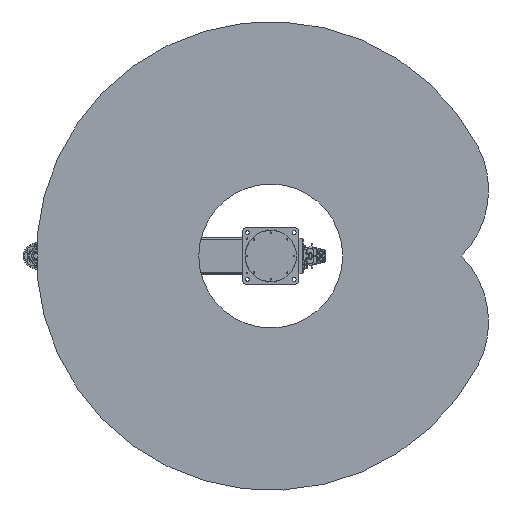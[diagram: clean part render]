
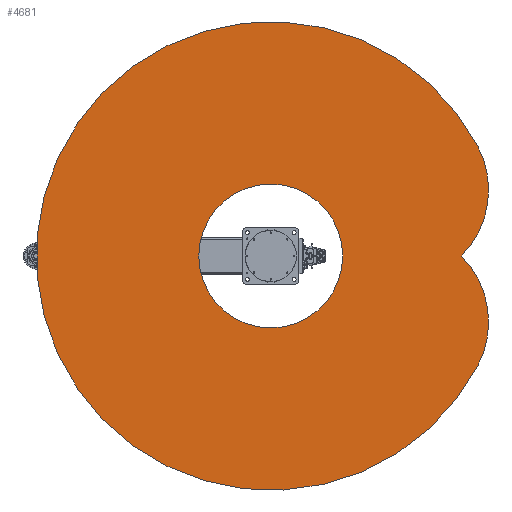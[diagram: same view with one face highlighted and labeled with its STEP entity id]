
A CAD part, front view. The second image highlights one B-rep face of the part: STEP entity #4681.
In plain terms, the highlighted planar face has unit normal (0, -1, 0).
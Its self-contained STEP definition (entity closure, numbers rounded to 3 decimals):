
#4681 = ADVANCED_FACE( '', ( #10995, #10996 ), #10997, .F. );
#10995 = FACE_BOUND( '', #19582, .T. );
#10996 = FACE_OUTER_BOUND( '', #19583, .T. );
#10997 = PLANE( '', #19584 );
#19582 = EDGE_LOOP( '', ( #34025 ) );
#19583 = EDGE_LOOP( '', ( #34026, #34027, #34028 ) );
#19584 = AXIS2_PLACEMENT_3D( '', #34029, #34030, #34031 );
#34025 = ORIENTED_EDGE( '', *, *, #49459, .T. );
#34026 = ORIENTED_EDGE( '', *, *, #47672, .F. );
#34027 = ORIENTED_EDGE( '', *, *, #45761, .F. );
#34028 = ORIENTED_EDGE( '', *, *, #49460, .F. );
#34029 = CARTESIAN_POINT( '', ( 140.842, 0., 264.885 ) );
#34030 = DIRECTION( '', ( 0., 1., 0. ) );
#34031 = DIRECTION( '', ( 0., 0., 1. ) );
#45761 = EDGE_CURVE( '', #54264, #54265, #54266, .T. );
#47672 = EDGE_CURVE( '', #54265, #57448, #57449, .T. );
#49459 = EDGE_CURVE( '', #60120, #60120, #60121, .T. );
#49460 = EDGE_CURVE( '', #57448, #54264, #60122, .T. );
#54264 = VERTEX_POINT( '', #66847 );
#54265 = VERTEX_POINT( '', #66848 );
#54266 = CIRCLE( '', #66849, 400. );
#57448 = VERTEX_POINT( '', #72553 );
#57449 = CIRCLE( '', #72554, 400. );
#60120 = VERTEX_POINT( '', #77061 );
#60121 = CIRCLE( '', #77062, 307. );
#60122 = CIRCLE( '', #77063, 1000. );
#66847 = CARTESIAN_POINT( '', ( -470.133, 0., 882.596 ) );
#66848 = CARTESIAN_POINT( '', ( 0., 0., 813.767 ) );
#66849 = AXIS2_PLACEMENT_3D( '', #84126, #84127, #84128 );
#72553 = CARTESIAN_POINT( '', ( 470.133, 0., 882.596 ) );
#72554 = AXIS2_PLACEMENT_3D( '', #86572, #86573, #86574 );
#77061 = CARTESIAN_POINT( '', ( 307., 0., 0. ) );
#77062 = AXIS2_PLACEMENT_3D( '', #88628, #88629, #88630 );
#77063 = AXIS2_PLACEMENT_3D( '', #88631, #88632, #88633 );
#84126 = CARTESIAN_POINT( '', ( -281.683, 0., 529.769 ) );
#84127 = DIRECTION( '', ( 0., 1., 0. ) );
#84128 = DIRECTION( '', ( 1., 0., 0. ) );
#86572 = CARTESIAN_POINT( '', ( 281.683, 0., 529.769 ) );
#86573 = DIRECTION( '', ( 0., 1., 0. ) );
#86574 = DIRECTION( '', ( 1., 0., 0. ) );
#88628 = CARTESIAN_POINT( '', ( 0., 0., 0. ) );
#88629 = DIRECTION( '', ( 0., 1., 0. ) );
#88630 = DIRECTION( '', ( 1., 0., 0. ) );
#88631 = CARTESIAN_POINT( '', ( 0., 0., 0. ) );
#88632 = DIRECTION( '', ( 0., 1., 0. ) );
#88633 = DIRECTION( '', ( 1., 0., 0. ) );
